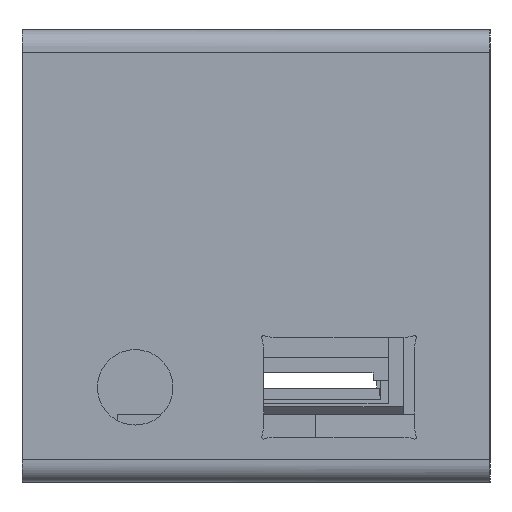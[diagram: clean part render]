
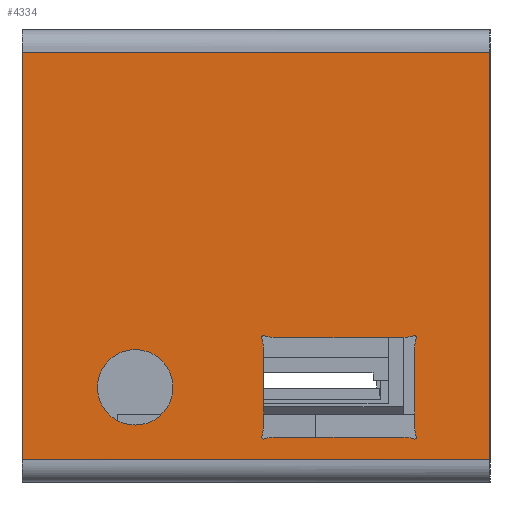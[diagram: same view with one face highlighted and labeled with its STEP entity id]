
A CAD part, left-side view. The second image highlights one B-rep face of the part: STEP entity #4334.
In plain terms, the highlighted planar face has unit normal (-1, 0, 0).
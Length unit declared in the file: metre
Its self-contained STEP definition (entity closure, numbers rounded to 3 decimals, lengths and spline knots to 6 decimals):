
#147=B_SPLINE_CURVE_WITH_KNOTS('',3,(#6809,#6810,#6811,#6812),
 .UNSPECIFIED.,.F.,.F.,(4,4),(0.,1.),.UNSPECIFIED.);
#148=B_SPLINE_CURVE_WITH_KNOTS('',3,(#6816,#6817,#6818,#6819),
 .UNSPECIFIED.,.F.,.F.,(4,4),(0.,1.),.UNSPECIFIED.);
#308=CIRCLE('',#4645,0.005);
#309=CIRCLE('',#4646,0.00025);
#310=CIRCLE('',#4647,0.005);
#311=CIRCLE('',#4648,0.005);
#312=CIRCLE('',#4649,0.00025);
#313=CIRCLE('',#4650,0.005);
#314=CIRCLE('',#4651,0.005);
#315=CIRCLE('',#4652,0.00025);
#316=CIRCLE('',#4653,0.005);
#317=CIRCLE('',#4654,0.005);
#318=CIRCLE('',#4655,0.00025);
#319=CIRCLE('',#4656,0.005);
#320=CIRCLE('',#4657,0.005);
#758=ORIENTED_EDGE('',*,*,#1813,.T.);
#759=ORIENTED_EDGE('',*,*,#2022,.T.);
#760=ORIENTED_EDGE('',*,*,#2023,.F.);
#761=ORIENTED_EDGE('',*,*,#2024,.T.);
#762=ORIENTED_EDGE('',*,*,#2025,.T.);
#763=ORIENTED_EDGE('',*,*,#2026,.T.);
#764=ORIENTED_EDGE('',*,*,#2027,.T.);
#765=ORIENTED_EDGE('',*,*,#2028,.T.);
#766=ORIENTED_EDGE('',*,*,#2029,.T.);
#767=ORIENTED_EDGE('',*,*,#2030,.F.);
#768=ORIENTED_EDGE('',*,*,#2031,.T.);
#769=ORIENTED_EDGE('',*,*,#2032,.F.);
#770=ORIENTED_EDGE('',*,*,#2033,.T.);
#771=ORIENTED_EDGE('',*,*,#2034,.T.);
#772=ORIENTED_EDGE('',*,*,#2035,.T.);
#773=ORIENTED_EDGE('',*,*,#2036,.F.);
#774=ORIENTED_EDGE('',*,*,#2037,.T.);
#775=ORIENTED_EDGE('',*,*,#2038,.F.);
#776=ORIENTED_EDGE('',*,*,#2039,.T.);
#777=ORIENTED_EDGE('',*,*,#2040,.T.);
#778=ORIENTED_EDGE('',*,*,#2041,.F.);
#1813=EDGE_CURVE('',#2461,#2466,#2857,.T.);
#2022=EDGE_CURVE('',#2466,#2644,#147,.T.);
#2023=EDGE_CURVE('',#2645,#2644,#2988,.T.);
#2024=EDGE_CURVE('',#2645,#2461,#148,.T.);
#2025=EDGE_CURVE('',#2646,#2647,#308,.T.);
#2026=EDGE_CURVE('',#2647,#2648,#309,.T.);
#2027=EDGE_CURVE('',#2648,#2649,#310,.T.);
#2028=EDGE_CURVE('',#2649,#2650,#2989,.T.);
#2029=EDGE_CURVE('',#2650,#2651,#311,.T.);
#2030=EDGE_CURVE('',#2652,#2651,#312,.T.);
#2031=EDGE_CURVE('',#2652,#2653,#313,.T.);
#2032=EDGE_CURVE('',#2654,#2653,#2990,.T.);
#2033=EDGE_CURVE('',#2654,#2655,#314,.T.);
#2034=EDGE_CURVE('',#2655,#2656,#315,.T.);
#2035=EDGE_CURVE('',#2656,#2657,#316,.T.);
#2036=EDGE_CURVE('',#2658,#2657,#2991,.T.);
#2037=EDGE_CURVE('',#2658,#2659,#317,.T.);
#2038=EDGE_CURVE('',#2660,#2659,#318,.T.);
#2039=EDGE_CURVE('',#2660,#2661,#319,.T.);
#2040=EDGE_CURVE('',#2661,#2646,#2992,.T.);
#2041=EDGE_CURVE('',#2662,#2662,#320,.T.);
#2461=VERTEX_POINT('',#6116);
#2466=VERTEX_POINT('',#6171);
#2644=VERTEX_POINT('',#6813);
#2645=VERTEX_POINT('',#6815);
#2646=VERTEX_POINT('',#6821);
#2647=VERTEX_POINT('',#6822);
#2648=VERTEX_POINT('',#6824);
#2649=VERTEX_POINT('',#6826);
#2650=VERTEX_POINT('',#6828);
#2651=VERTEX_POINT('',#6830);
#2652=VERTEX_POINT('',#6832);
#2653=VERTEX_POINT('',#6834);
#2654=VERTEX_POINT('',#6836);
#2655=VERTEX_POINT('',#6838);
#2656=VERTEX_POINT('',#6840);
#2657=VERTEX_POINT('',#6842);
#2658=VERTEX_POINT('',#6844);
#2659=VERTEX_POINT('',#6846);
#2660=VERTEX_POINT('',#6848);
#2661=VERTEX_POINT('',#6850);
#2662=VERTEX_POINT('',#6853);
#2857=LINE('',#6172,#3248);
#2988=LINE('',#6814,#3379);
#2989=LINE('',#6827,#3380);
#2990=LINE('',#6835,#3381);
#2991=LINE('',#6843,#3382);
#2992=LINE('',#6851,#3383);
#3248=VECTOR('',#4947,1.);
#3379=VECTOR('',#5200,1.);
#3380=VECTOR('',#5207,1.);
#3381=VECTOR('',#5214,1.);
#3382=VECTOR('',#5221,1.);
#3383=VECTOR('',#5228,1.);
#3641=EDGE_LOOP('',(#758,#759,#760,#761));
#3642=EDGE_LOOP('',(#762,#763,#764,#765,#766,#767,#768,#769,#770,#771,#772,
#773,#774,#775,#776,#777));
#3643=EDGE_LOOP('',(#778));
#3926=FACE_BOUND('',#3641,.T.);
#3927=FACE_BOUND('',#3642,.T.);
#3928=FACE_BOUND('',#3643,.T.);
#4180=PLANE('',#4644);
#4334=ADVANCED_FACE('',(#3926,#3927,#3928),#4180,.F.);
#4644=AXIS2_PLACEMENT_3D('',#6808,#5198,#5199);
#4645=AXIS2_PLACEMENT_3D('',#6820,#5201,#5202);
#4646=AXIS2_PLACEMENT_3D('',#6823,#5203,#5204);
#4647=AXIS2_PLACEMENT_3D('',#6825,#5205,#5206);
#4648=AXIS2_PLACEMENT_3D('',#6829,#5208,#5209);
#4649=AXIS2_PLACEMENT_3D('',#6831,#5210,#5211);
#4650=AXIS2_PLACEMENT_3D('',#6833,#5212,#5213);
#4651=AXIS2_PLACEMENT_3D('',#6837,#5215,#5216);
#4652=AXIS2_PLACEMENT_3D('',#6839,#5217,#5218);
#4653=AXIS2_PLACEMENT_3D('',#6841,#5219,#5220);
#4654=AXIS2_PLACEMENT_3D('',#6845,#5222,#5223);
#4655=AXIS2_PLACEMENT_3D('',#6847,#5224,#5225);
#4656=AXIS2_PLACEMENT_3D('',#6849,#5226,#5227);
#4657=AXIS2_PLACEMENT_3D('',#6852,#5229,#5230);
#4947=DIRECTION('',(0.,0.,-1.));
#5198=DIRECTION('',(1.,0.,0.));
#5199=DIRECTION('',(0.,-1.,0.));
#5200=DIRECTION('',(0.,0.,-1.));
#5201=DIRECTION('',(-1.,0.,0.));
#5202=DIRECTION('',(0.,1.,0.));
#5203=DIRECTION('',(1.,0.,0.));
#5204=DIRECTION('',(0.,1.,0.));
#5205=DIRECTION('',(-1.,0.,0.));
#5206=DIRECTION('',(0.,1.,0.));
#5207=DIRECTION('',(0.,-1.,0.));
#5208=DIRECTION('',(-1.,0.,0.));
#5209=DIRECTION('',(0.,1.,0.));
#5210=DIRECTION('',(-1.,0.,0.));
#5211=DIRECTION('',(0.,1.,0.));
#5212=DIRECTION('',(-1.,0.,0.));
#5213=DIRECTION('',(0.,1.,0.));
#5214=DIRECTION('',(0.,0.,1.));
#5215=DIRECTION('',(-1.,0.,0.));
#5216=DIRECTION('',(0.,1.,0.));
#5217=DIRECTION('',(1.,0.,0.));
#5218=DIRECTION('',(0.,1.,0.));
#5219=DIRECTION('',(-1.,0.,0.));
#5220=DIRECTION('',(0.,1.,0.));
#5221=DIRECTION('',(0.,-1.,0.));
#5222=DIRECTION('',(-1.,0.,0.));
#5223=DIRECTION('',(0.,1.,0.));
#5224=DIRECTION('',(-1.,0.,0.));
#5225=DIRECTION('',(0.,1.,0.));
#5226=DIRECTION('',(-1.,0.,0.));
#5227=DIRECTION('',(0.,1.,0.));
#5228=DIRECTION('',(0.,0.,1.));
#5229=DIRECTION('',(-1.,0.,0.));
#5230=DIRECTION('',(0.,1.,0.));
#6116=CARTESIAN_POINT('',(-0.07,0.06,0.027));
#6171=CARTESIAN_POINT('',(-0.07,0.06,-0.027));
#6172=CARTESIAN_POINT('',(-0.07,0.06,-0.0015));
#6808=CARTESIAN_POINT('',(-0.07,-0.002,-0.0015));
#6809=CARTESIAN_POINT('',(-0.07,0.06,-0.027));
#6810=CARTESIAN_POINT('',(-0.07,0.039333,-0.027));
#6811=CARTESIAN_POINT('',(-0.07,0.018667,-0.027));
#6812=CARTESIAN_POINT('',(-0.07,-0.002,-0.027));
#6813=CARTESIAN_POINT('',(-0.07,-0.002,-0.027));
#6814=CARTESIAN_POINT('',(-0.07,-0.002,-0.0015));
#6815=CARTESIAN_POINT('',(-0.07,-0.002,0.027));
#6816=CARTESIAN_POINT('',(-0.07,-0.002,0.027));
#6817=CARTESIAN_POINT('',(-0.07,0.018667,0.027));
#6818=CARTESIAN_POINT('',(-0.07,0.039333,0.027));
#6819=CARTESIAN_POINT('',(-0.07,0.06,0.027));
#6820=CARTESIAN_POINT('',(-0.07,0.033,-0.012401));
#6821=CARTESIAN_POINT('',(-0.07,0.028,-0.012401));
#6822=CARTESIAN_POINT('',(-0.07,0.028238,-0.010876));
#6823=CARTESIAN_POINT('',(-0.07,0.028,-0.0108));
#6824=CARTESIAN_POINT('',(-0.07,0.027924,-0.010562));
#6825=CARTESIAN_POINT('',(-0.07,0.026399,-0.0058));
#6826=CARTESIAN_POINT('',(-0.07,0.026399,-0.0108));
#6827=CARTESIAN_POINT('',(-0.07,0.018,-0.0108));
#6828=CARTESIAN_POINT('',(-0.07,0.009601,-0.0108));
#6829=CARTESIAN_POINT('',(-0.07,0.009601,-0.0058));
#6830=CARTESIAN_POINT('',(-0.07,0.008076,-0.010562));
#6831=CARTESIAN_POINT('',(-0.07,0.008,-0.0108));
#6832=CARTESIAN_POINT('',(-0.07,0.007762,-0.010876));
#6833=CARTESIAN_POINT('',(-0.07,0.003,-0.012401));
#6834=CARTESIAN_POINT('',(-0.07,0.008,-0.012401));
#6835=CARTESIAN_POINT('',(-0.07,0.008,-0.0174));
#6836=CARTESIAN_POINT('',(-0.07,0.008,-0.022399));
#6837=CARTESIAN_POINT('',(-0.07,0.003,-0.022399));
#6838=CARTESIAN_POINT('',(-0.07,0.007762,-0.023924));
#6839=CARTESIAN_POINT('',(-0.07,0.008,-0.024));
#6840=CARTESIAN_POINT('',(-0.07,0.008076,-0.024238));
#6841=CARTESIAN_POINT('',(-0.07,0.009601,-0.029));
#6842=CARTESIAN_POINT('',(-0.07,0.009601,-0.024));
#6843=CARTESIAN_POINT('',(-0.07,0.018,-0.024));
#6844=CARTESIAN_POINT('',(-0.07,0.026399,-0.024));
#6845=CARTESIAN_POINT('',(-0.07,0.026399,-0.029));
#6846=CARTESIAN_POINT('',(-0.07,0.027924,-0.024238));
#6847=CARTESIAN_POINT('',(-0.07,0.028,-0.024));
#6848=CARTESIAN_POINT('',(-0.07,0.028238,-0.023924));
#6849=CARTESIAN_POINT('',(-0.07,0.033,-0.022399));
#6850=CARTESIAN_POINT('',(-0.07,0.028,-0.022399));
#6851=CARTESIAN_POINT('',(-0.07,0.028,-0.0174));
#6852=CARTESIAN_POINT('',(-0.07,0.045,-0.0174));
#6853=CARTESIAN_POINT('',(-0.07,0.05,-0.0174));
